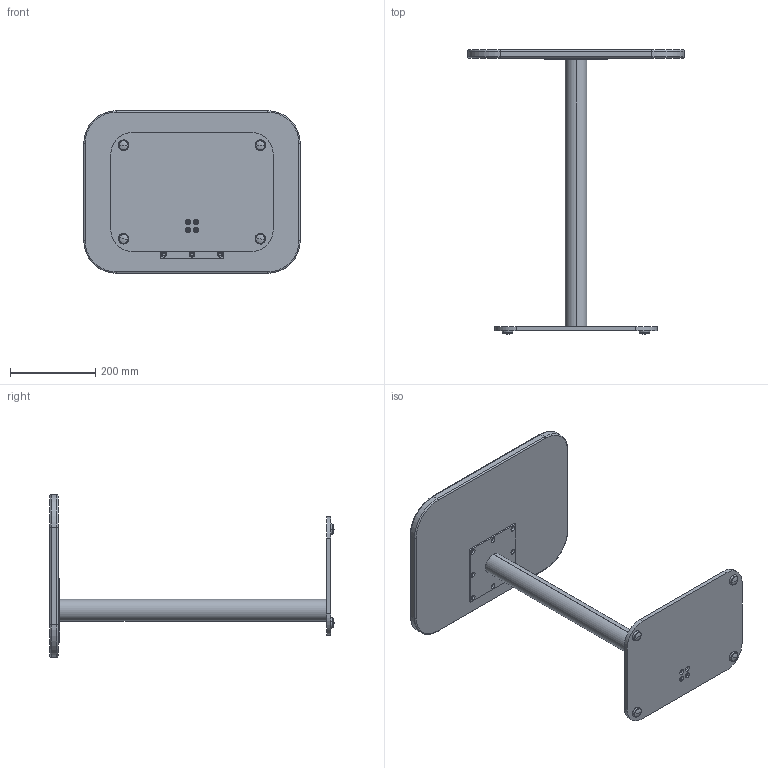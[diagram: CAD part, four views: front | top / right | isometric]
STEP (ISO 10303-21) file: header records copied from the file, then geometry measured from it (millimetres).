
FILE_DESCRIPTION (( 'STEP AP203' ), '1' );
FILE_NAME ('15x20 Rectangle Short Mount.STEP', '2024-10-30T12:23:24', ( '' ), ( '' ), 'SwSTEP 2.0', 'SolidWorks 2021', '' );
FILE_SCHEMA (( 'CONFIG_CONTROL_DESIGN' ));
Length unit declared in the file: inch
Products named in the file (13): 15x20 Rectangle Short Mount; Welded C-2.25 Col Prototype; TT-15x20-EB; 90720A520_Heavy Duty Twist-Resistant Rivet Nut_90720A520; TT-15x20-Core; 11X15_RECTANGLE_C_BASEPLATE_ASSY.SHORT; ALG-SS; 150mm Square Plate; 11X15_RECTANGLE_C_BASEPLATE_SHORT_Center Mount; TT-15x20; C2.25 Column Insert Plate; C2.25 Column; TT-15x20-Lam
Assembly tree (18 placements, depth 3):
  15x20 Rectangle Short Mount
    11X15_RECTANGLE_C_BASEPLATE_ASSY.SHORT
      11X15_RECTANGLE_C_BASEPLATE_SHORT_Center Mount
      ALG-SS  x4
    Welded C-2.25 Col Prototype
      150mm Square Plate
      C2.25 Column
      C2.25 Column Insert Plate
      90720A520_Heavy Duty Twist-Resistant Rivet Nut_90720A520  x4
    TT-15x20
      TT-15x20-Core
      TT-15x20-Lam
      TT-15x20-EB
Bounding box: 508 x 666.75 x 381 mm (x, y, z)
Volume: 4890558.9 mm3; surface area: 1310707.1 mm2
Topology: 19 solids, 19 shells, 595 faces, 1393 edges, 838 vertices
Faces by surface type: cylinder 243, cone 192, plane 116, bspline 20, torus 16, sphere 8
Entity records: 13295 total; most frequent: CARTESIAN_POINT 5120, DIRECTION 1453, ORIENTED_EDGE 1336, EDGE_CURVE 668, AXIS2_PLACEMENT_3D 553, VERTEX_POINT 409, LINE 347, VECTOR 347
